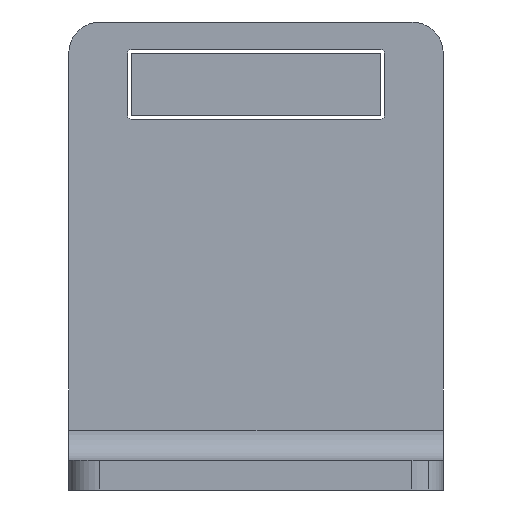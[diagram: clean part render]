
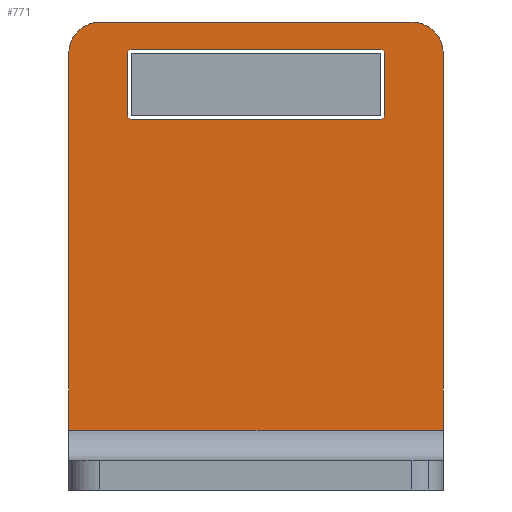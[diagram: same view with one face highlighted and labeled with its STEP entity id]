
A CAD part, left-side view. The second image highlights one B-rep face of the part: STEP entity #771.
In plain terms, the highlighted planar face has unit normal (-1, 0, 0).
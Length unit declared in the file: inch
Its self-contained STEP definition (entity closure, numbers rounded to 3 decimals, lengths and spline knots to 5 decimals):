
#187=DIRECTION('',(0.,0.,-1.));
#188=VECTOR('',#187,1.51);
#189=CARTESIAN_POINT('',(-0.12,0.75,1.75));
#190=LINE('',#189,#188);
#191=CARTESIAN_POINT('',(-0.12,0.625,1.75));
#192=DIRECTION('',(-1.,0.,0.));
#193=DIRECTION('',(0.,0.,1.));
#194=AXIS2_PLACEMENT_3D('',#191,#192,#193);
#196=DIRECTION('',(0.,1.,0.));
#197=VECTOR('',#196,1.25);
#198=CARTESIAN_POINT('',(-0.12,-0.625,1.875));
#199=LINE('',#198,#197);
#200=CARTESIAN_POINT('',(-0.12,-0.625,1.75));
#201=DIRECTION('',(-1.,0.,0.));
#202=DIRECTION('',(0.,-1.,0.));
#203=AXIS2_PLACEMENT_3D('',#200,#201,#202);
#205=DIRECTION('',(0.,0.,1.));
#206=VECTOR('',#205,0.25);
#207=CARTESIAN_POINT('',(-0.12,0.515,1.5));
#208=LINE('',#207,#206);
#209=CARTESIAN_POINT('',(-0.12,0.5,1.5));
#210=DIRECTION('',(1.,0.,0.));
#211=DIRECTION('',(0.,0.,-1.));
#212=AXIS2_PLACEMENT_3D('',#209,#210,#211);
#214=DIRECTION('',(0.,1.,0.));
#215=VECTOR('',#214,1.);
#216=CARTESIAN_POINT('',(-0.12,-0.5,1.485));
#217=LINE('',#216,#215);
#218=CARTESIAN_POINT('',(-0.12,-0.5,1.5));
#219=DIRECTION('',(1.,0.,0.));
#220=DIRECTION('',(0.,-1.,0.));
#221=AXIS2_PLACEMENT_3D('',#218,#219,#220);
#223=DIRECTION('',(0.,0.,-1.));
#224=VECTOR('',#223,0.25);
#225=CARTESIAN_POINT('',(-0.12,-0.515,1.75));
#226=LINE('',#225,#224);
#227=CARTESIAN_POINT('',(-0.12,-0.5,1.75));
#228=DIRECTION('',(1.,0.,0.));
#229=DIRECTION('',(0.,0.,1.));
#230=AXIS2_PLACEMENT_3D('',#227,#228,#229);
#232=DIRECTION('',(0.,-1.,0.));
#233=VECTOR('',#232,1.);
#234=CARTESIAN_POINT('',(-0.12,0.5,1.765));
#235=LINE('',#234,#233);
#236=CARTESIAN_POINT('',(-0.12,0.5,1.75));
#237=DIRECTION('',(1.,0.,0.));
#238=DIRECTION('',(0.,1.,0.));
#239=AXIS2_PLACEMENT_3D('',#236,#237,#238);
#241=DIRECTION('',(0.,0.,-1.));
#242=VECTOR('',#241,1.51);
#243=CARTESIAN_POINT('',(-0.12,-0.75,1.75));
#244=LINE('',#243,#242);
#351=DIRECTION('',(0.,1.,0.));
#352=VECTOR('',#351,1.5);
#353=CARTESIAN_POINT('',(-0.12,-0.75,0.24));
#354=LINE('',#353,#352);
#387=CARTESIAN_POINT('',(-0.12,0.515,1.5));
#388=CARTESIAN_POINT('',(-0.12,0.515,1.75));
#389=VERTEX_POINT('',#387);
#390=VERTEX_POINT('',#388);
#395=CARTESIAN_POINT('',(-0.12,-0.75,1.75));
#396=VERTEX_POINT('',#395);
#433=CARTESIAN_POINT('',(-0.12,-0.5,1.485));
#434=CARTESIAN_POINT('',(-0.12,0.5,1.485));
#435=VERTEX_POINT('',#433);
#436=VERTEX_POINT('',#434);
#439=CARTESIAN_POINT('',(-0.12,-0.515,1.5));
#440=VERTEX_POINT('',#439);
#465=CARTESIAN_POINT('',(-0.12,-0.5,1.765));
#466=CARTESIAN_POINT('',(-0.12,-0.515,1.75));
#467=VERTEX_POINT('',#465);
#468=VERTEX_POINT('',#466);
#469=CARTESIAN_POINT('',(-0.12,0.625,1.875));
#470=CARTESIAN_POINT('',(-0.12,0.75,1.75));
#471=VERTEX_POINT('',#469);
#472=VERTEX_POINT('',#470);
#479=CARTESIAN_POINT('',(-0.12,-0.75,0.24));
#480=CARTESIAN_POINT('',(-0.12,0.75,0.24));
#481=VERTEX_POINT('',#479);
#482=VERTEX_POINT('',#480);
#485=CARTESIAN_POINT('',(-0.12,-0.625,1.875));
#486=VERTEX_POINT('',#485);
#489=CARTESIAN_POINT('',(-0.12,0.5,1.765));
#490=VERTEX_POINT('',#489);
#735=CARTESIAN_POINT('',(-0.12,0.75,0.));
#736=DIRECTION('',(1.,0.,0.));
#737=DIRECTION('',(0.,0.,-1.));
#738=AXIS2_PLACEMENT_3D('',#735,#736,#737);
#739=PLANE('',#738);
#741=ORIENTED_EDGE('',*,*,#740,.T.);
#743=ORIENTED_EDGE('',*,*,#742,.T.);
#744=ORIENTED_EDGE('',*,*,#725,.F.);
#746=ORIENTED_EDGE('',*,*,#745,.F.);
#748=ORIENTED_EDGE('',*,*,#747,.F.);
#750=ORIENTED_EDGE('',*,*,#749,.F.);
#751=EDGE_LOOP('',(#741,#743,#744,#746,#748,#750));
#752=FACE_OUTER_BOUND('',#751,.F.);
#754=ORIENTED_EDGE('',*,*,#753,.F.);
#756=ORIENTED_EDGE('',*,*,#755,.F.);
#758=ORIENTED_EDGE('',*,*,#757,.F.);
#760=ORIENTED_EDGE('',*,*,#759,.F.);
#762=ORIENTED_EDGE('',*,*,#761,.F.);
#764=ORIENTED_EDGE('',*,*,#763,.F.);
#766=ORIENTED_EDGE('',*,*,#765,.F.);
#768=ORIENTED_EDGE('',*,*,#767,.F.);
#769=EDGE_LOOP('',(#754,#756,#758,#760,#762,#764,#766,#768));
#770=FACE_BOUND('',#769,.F.);
#195=CIRCLE('',#194,0.125);
#204=CIRCLE('',#203,0.125);
#213=CIRCLE('',#212,0.015);
#222=CIRCLE('',#221,0.015);
#231=CIRCLE('',#230,0.015);
#240=CIRCLE('',#239,0.015);
#725=EDGE_CURVE('',#472,#482,#190,.T.);
#740=EDGE_CURVE('',#396,#481,#244,.T.);
#742=EDGE_CURVE('',#481,#482,#354,.T.);
#745=EDGE_CURVE('',#471,#472,#195,.T.);
#747=EDGE_CURVE('',#486,#471,#199,.T.);
#749=EDGE_CURVE('',#396,#486,#204,.T.);
#753=EDGE_CURVE('',#389,#390,#208,.T.);
#755=EDGE_CURVE('',#436,#389,#213,.T.);
#757=EDGE_CURVE('',#435,#436,#217,.T.);
#759=EDGE_CURVE('',#440,#435,#222,.T.);
#761=EDGE_CURVE('',#468,#440,#226,.T.);
#763=EDGE_CURVE('',#467,#468,#231,.T.);
#765=EDGE_CURVE('',#490,#467,#235,.T.);
#767=EDGE_CURVE('',#390,#490,#240,.T.);
#771=ADVANCED_FACE('',(#752,#770),#739,.F.);
